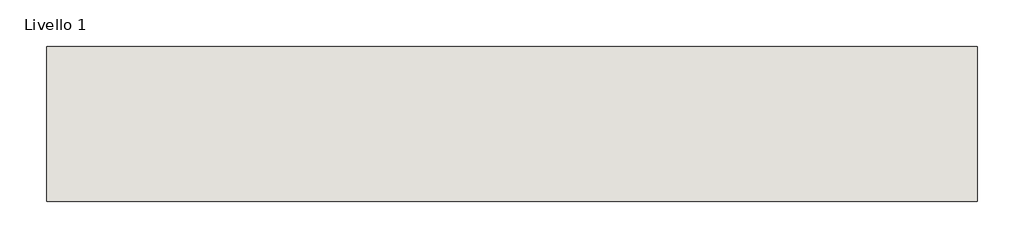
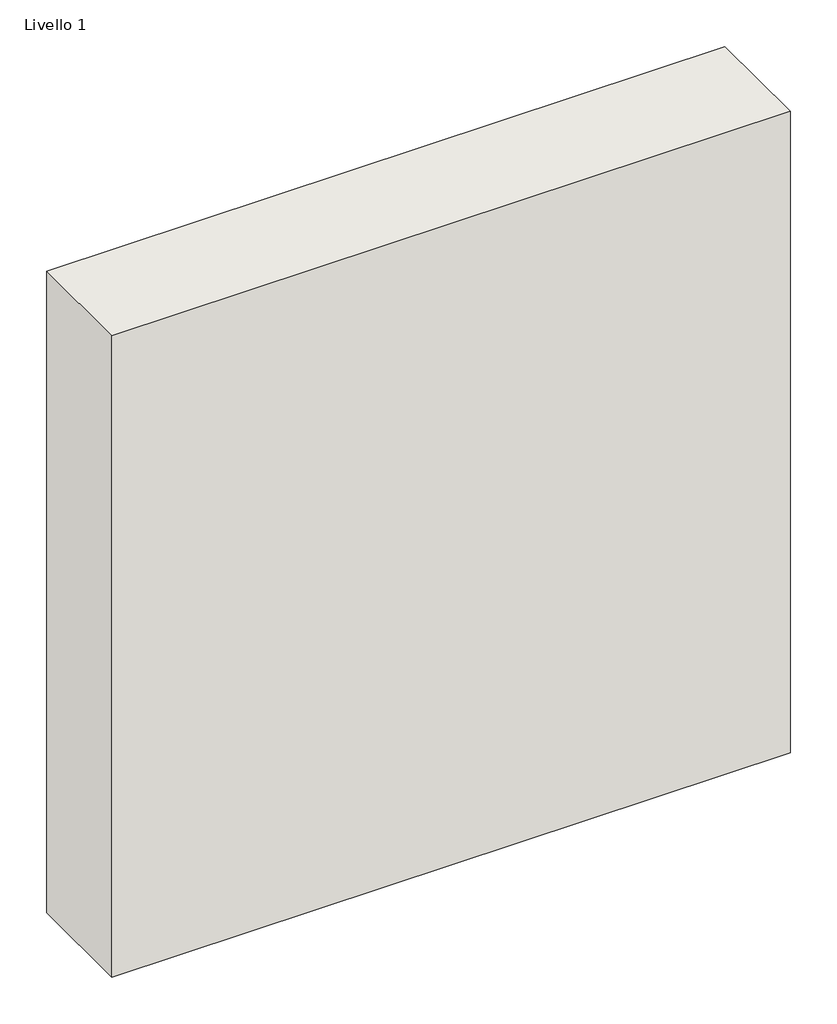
# One storey: 1 wall.
"""IFC4 building model written with IfcOpenShell, lengths in millimetres."""

import ifcopenshell
import ifcopenshell.guid

model = None  # the IFC model being written
_history = None  # IfcOwnerHistory: only IFC2X3 demands one
_inside = {}  # id of a spatial element -> (the spatial element, [elements in it])
_under = {}  # id of a project, library or spatial element -> (it, [spatial elements below it])
_declared = {}  # id of a project -> (the project, [libraries it declares])
_typed = {}  # id of a type object -> (the type object, [elements of that type])
_made_of = {}  # id of a material, layer set ... -> (it, [elements and type objects made of it])


def new_model(schema):
    """Start an empty IFC model of exactly this schema.

    Asked for "IFC4X3", IfcOpenShell would pick the latest addendum, in which some entities
    have other attributes; the version numbers below select the first issue.
    IFC2X3 requires an IfcOwnerHistory on every rooted entity: one is made here for all.
    """
    global model, _history
    if schema == "IFC4X3":
        model = ifcopenshell.file(schema_version=(4, 3, 0, 0))
    else:
        model = ifcopenshell.file(schema=schema)
    _inside.clear()
    _under.clear()
    _declared.clear()
    _typed.clear()
    _made_of.clear()
    _history = None
    if model.schema == "IFC2X3":
        org = make("IfcOrganization", Name="unknown")
        user = make(
            "IfcPersonAndOrganization",
            ThePerson=make("IfcPerson", FamilyName="unknown"),
            TheOrganization=org,
        )
        app = make(
            "IfcApplication",
            ApplicationDeveloper=org,
            Version="unknown",
            ApplicationFullName="unknown",
            ApplicationIdentifier="unknown",
        )
        _history = make(
            "IfcOwnerHistory",
            OwningUser=user,
            OwningApplication=app,
            ChangeAction="ADDED",
            CreationDate=0,
        )
    return model


def make(cls, **values):
    """One entity of the class cls with the attributes given. An attribute that is None is left unset."""
    return model.create_entity(
        cls, **{name: value for name, value in values.items() if value is not None}
    )


def rooted(cls, **values):
    """An entity with a GlobalId (a new one), such as an element, a storey or a relation."""
    return make(cls, GlobalId=ifcopenshell.guid.new(), OwnerHistory=_history, **values)


def si_unit(unit_type, name, prefix=None):
    """IfcSIUnit, for example si_unit("LENGTHUNIT", "METRE", prefix="MILLI")."""
    return make("IfcSIUnit", UnitType=unit_type, Prefix=prefix, Name=name)


def assignment(units):
    """IfcUnitAssignment: the units of a project."""
    return None if units is None else make("IfcUnitAssignment", Units=units)


def point(xyz):
    """IfcCartesianPoint."""
    return None if xyz is None else make("IfcCartesianPoint", Coordinates=xyz)


def direction(xyz):
    """IfcDirection."""
    return None if xyz is None else make("IfcDirection", DirectionRatios=xyz)


def frame(location, z_axis=None, x_axis=None):
    """IfcAxis2Placement3D, a coordinate frame: its origin and axes. An axis left out is left unset."""
    return make(
        "IfcAxis2Placement3D",
        Location=point(location),
        Axis=direction(z_axis),
        RefDirection=direction(x_axis),
    )


def origin():
    """The frame at (0, 0, 0) with its axes left unset."""
    return frame((0.0, 0.0, 0.0))


def origin_with_axes():
    """The frame at (0, 0, 0) with the z axis (0, 0, 1) and the x axis (1, 0, 0) written out."""
    return frame((0.0, 0.0, 0.0), z_axis=(0.0, 0.0, 1.0), x_axis=(1.0, 0.0, 0.0))


def place(relative_to, where):
    """IfcLocalPlacement: puts the frame where relative to a parent placement (None: the world)."""
    return make(
        "IfcLocalPlacement", PlacementRelTo=relative_to, RelativePlacement=where
    )


def context(
    kind, dimensions, precision=None, world=None, true_north=None, identifier=None
):
    """IfcGeometricRepresentationContext, for example the 3D "Model" context."""
    return make(
        "IfcGeometricRepresentationContext",
        ContextIdentifier=identifier,
        ContextType=kind,
        CoordinateSpaceDimension=dimensions,
        Precision=precision,
        WorldCoordinateSystem=world,
        TrueNorth=true_north,
    )


def project(units=None, contexts=None):
    """IfcProject with its units and contexts."""
    return rooted(
        "IfcProject",
        Name="project",
        RepresentationContexts=contexts,
        UnitsInContext=assignment(units),
    )


def spatial(cls, under=None, at=None, **own):
    """A site, building, storey or space (cls), placed at a placement, below another one or the project."""
    s = rooted(cls, ObjectPlacement=at, **own)
    if under is not None:
        _under.setdefault(under.id(), (under, []))[1].append(s)
    return s


def polyline(points):
    """IfcPolyline through the points."""
    return make("IfcPolyline", Points=[point(p) for p in points])


def outline(outer, holes=None, kind="AREA"):
    """IfcArbitraryClosedProfileDef: a profile drawn as a closed curve; with holes, ...WithVoids."""
    if holes is None:
        return make("IfcArbitraryClosedProfileDef", ProfileType=kind, OuterCurve=outer)
    return make(
        "IfcArbitraryProfileDefWithVoids",
        ProfileType=kind,
        OuterCurve=outer,
        InnerCurves=holes,
    )


def extrude(swept, where, along, depth):
    """IfcExtrudedAreaSolid: the profile swept, set in the frame where, extruded along a direction by depth."""
    return make(
        "IfcExtrudedAreaSolid",
        SweptArea=swept,
        Position=where,
        ExtrudedDirection=direction(along),
        Depth=depth,
    )


def shape(context_of_items, identifier, shape_type, items):
    """IfcShapeRepresentation: the items that make up one representation, for example the "Body"."""
    return make(
        "IfcShapeRepresentation",
        ContextOfItems=context_of_items,
        RepresentationIdentifier=identifier,
        RepresentationType=shape_type,
        Items=items,
    )


def made_of(thing, what):
    """Note that an element or type object is made of a material, layer set ...; save() writes the relation."""
    if what is not None:
        _made_of.setdefault(what.id(), (what, []))[1].append(thing)
    return thing


def element(
    cls,
    number,
    at=None,
    inside=None,
    cuts=None,
    type_object=None,
    material=None,
    context=None,
    identifier="Body",
    shape_type=None,
    held_by="IfcProductDefinitionShape",
    body=None,
    shapes=None,
    **own,
):
    """One element of the class cls, such as IfcWall. Its Tag is "e" and its number.

    at: its placement. inside: the storey or other place that contains it. cuts: it is an
    opening in that element (IfcRelVoidsElement). A single representation is given by context,
    identifier, shape_type and body (its items); several are given by shapes. held_by: the class
    of the entity that holds the representations. save() writes the other relations.
    """
    e = rooted(cls, Tag="e%d" % number, ObjectPlacement=at, **own)
    if body is not None:
        shapes = [shape(context, identifier, shape_type, body)]
    if shapes is not None:
        e.Representation = make(held_by, Representations=shapes)
    if inside is not None:
        _inside.setdefault(inside.id(), (inside, []))[1].append(e)
    if cuts is not None:
        rooted(
            "IfcRelVoidsElement", RelatingBuildingElement=cuts, RelatedOpeningElement=e
        )
    if type_object is not None:
        _typed.setdefault(type_object.id(), (type_object, []))[1].append(e)
    return made_of(e, material)


def aggregate(whole, parts):
    """IfcRelAggregates: a whole, such as a stair, and the parts it consists of."""
    return rooted("IfcRelAggregates", RelatingObject=whole, RelatedObjects=parts)


def save(model, path):
    """Write the relations noted so far, then the file.

    IfcRelAggregates (storeys below a building ...), IfcRelContainedInSpatialStructure (elements
    in a storey), IfcRelDefinesByType, IfcRelAssociatesMaterial and IfcRelDeclares: one each for
    every whole, place, type object, material and project.
    """
    for whole, parts in _under.values():
        aggregate(whole, parts)
    for where, things in _inside.values():
        rooted(
            "IfcRelContainedInSpatialStructure",
            RelatedElements=things,
            RelatingStructure=where,
        )
    for kind, things in _typed.values():
        rooted("IfcRelDefinesByType", RelatedObjects=things, RelatingType=kind)
    for what, things in _made_of.values():
        rooted("IfcRelAssociatesMaterial", RelatedObjects=things, RelatingMaterial=what)
    for by, libraries in _declared.values():
        rooted("IfcRelDeclares", RelatingContext=by, RelatedDefinitions=libraries)
    model.write(path)


model = new_model("IFC4")

# Units and contexts
model_context = context("Model", 3, world=origin())
ifc_project = project(units=[si_unit("LENGTHUNIT", "METRE", prefix="MILLI")], contexts=[model_context])

# Site, building, storey
site = spatial("IfcSite", under=ifc_project)
building = spatial("IfcBuilding", under=site)
storey = spatial("IfcBuildingStorey", under=building, Name="Livello 1", Elevation=0.0)

# Wall
placement = place(None, origin())
element("IfcWall", 1, ObjectType="Muro 1", at=placement, inside=storey, context=model_context, shape_type="SweptSolid", body=[
    extrude(outline(polyline([(2468.0722892, 2186.1445783), (1268.0722892, 2186.1445783), (1268.0722892, 2386.1445783), (2468.0722892, 2386.1445783), (2468.0722892, 2186.1445783)])), origin_with_axes(), (0.0, 0.0, 1.0), 1200.0),
])

save(model, "model.ifc")
